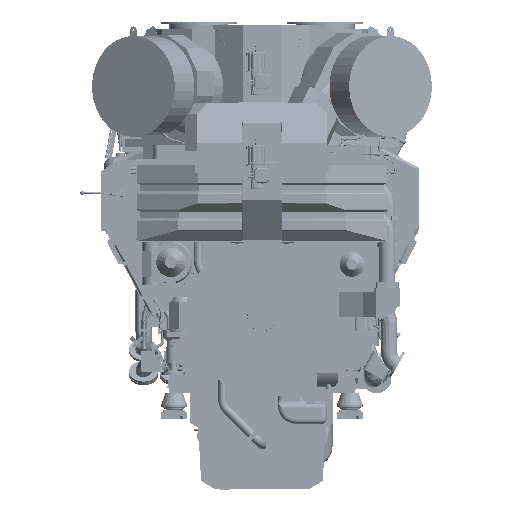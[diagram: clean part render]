
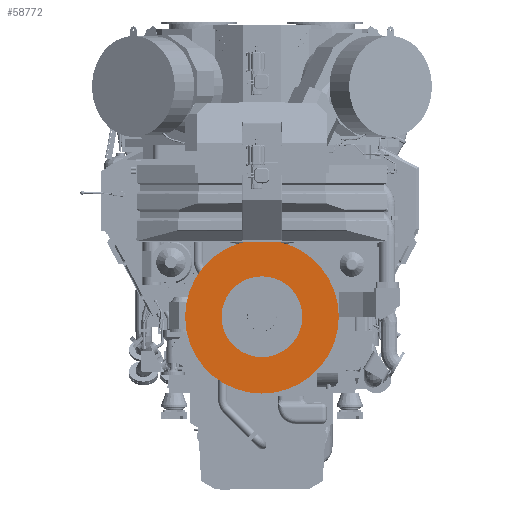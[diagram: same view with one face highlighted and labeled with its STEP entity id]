
A CAD part, left-side view. The second image highlights one B-rep face of the part: STEP entity #58772.
In plain terms, the highlighted planar face has unit normal (-1, 0, 0).
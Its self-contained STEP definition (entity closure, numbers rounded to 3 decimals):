
#19882=FACE_BOUND('',#105590,.T.);
#19883=FACE_BOUND('',#105591,.T.);
#40669=CIRCLE('',#336883,656.);
#40671=CIRCLE('',#336886,345.);
#58772=ADVANCED_FACE('',(#19882,#19883),#68645,.F.);
#68645=PLANE('',#336887);
#105590=EDGE_LOOP('',(#189070));
#105591=EDGE_LOOP('',(#189071));
#189070=ORIENTED_EDGE('',*,*,#258748,.T.);
#189071=ORIENTED_EDGE('',*,*,#258746,.F.);
#216958=VERTEX_POINT('',#650993);
#216960=VERTEX_POINT('',#650998);
#258746=EDGE_CURVE('',#216958,#216958,#40669,.T.);
#258748=EDGE_CURVE('',#216960,#216960,#40671,.T.);
#336883=AXIS2_PLACEMENT_3D('',#650992,#418455,#418456);
#336886=AXIS2_PLACEMENT_3D('',#650997,#418461,#418462);
#336887=AXIS2_PLACEMENT_3D('',#650999,#418463,#418464);
#418455=DIRECTION('',(1.,0.,0.));
#418456=DIRECTION('',(0.,1.,0.));
#418461=DIRECTION('',(1.,0.,0.));
#418462=DIRECTION('',(0.,1.,0.));
#418463=DIRECTION('',(1.,0.,0.));
#418464=DIRECTION('',(0.,0.,-1.));
#650992=CARTESIAN_POINT('',(0.,0.,0.));
#650993=CARTESIAN_POINT('',(0.,656.,0.));
#650997=CARTESIAN_POINT('',(0.,0.,0.));
#650998=CARTESIAN_POINT('',(0.,345.,0.));
#650999=CARTESIAN_POINT('',(0.,0.,0.));
